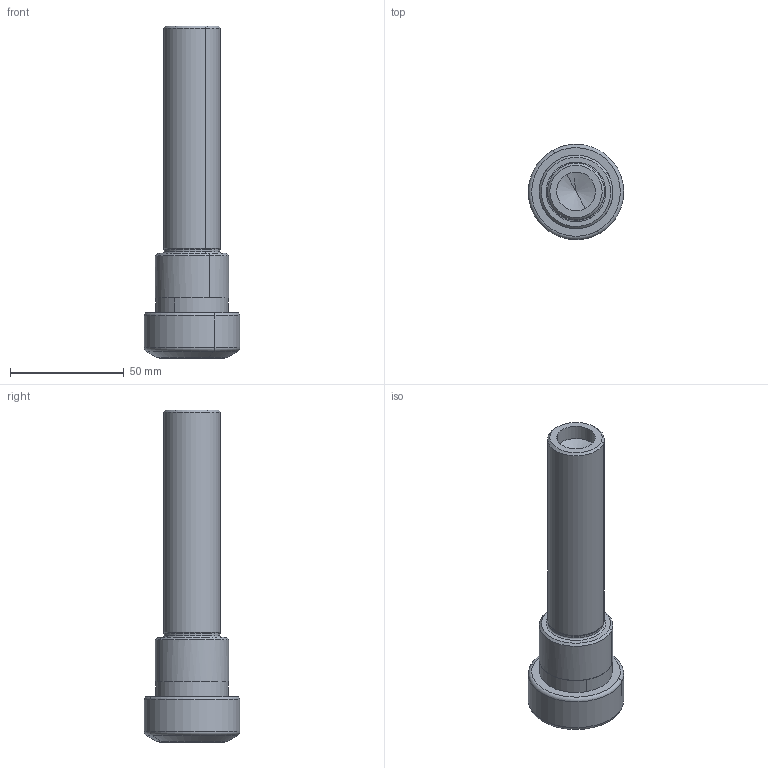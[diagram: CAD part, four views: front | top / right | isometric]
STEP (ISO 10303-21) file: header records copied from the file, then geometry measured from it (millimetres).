
FILE_DESCRIPTION(('CATIA V5 STEP','CAx-IF Rec.Pracs.--- Model Styling and Organization---1.2---2011-12-15'),'2;1');
FILE_NAME('\\nas01\drv1\utils\eitdev\rte\eit\transmagicconvert\db\out\635962253454379331\4508013-L-M.stp','2016-04-14T07:09:17+00:00',('none'),('none'),'CATIA Version 5 Release 21 SP 5 (IN-10)','CATIA V5 STEP AP214','none');
FILE_SCHEMA(('AUTOMOTIVE_DESIGN { 1 0 10303 214 1 1 1 1 }'));
Length unit declared in the file: millimetre
Products named in the file (1): ST 25X100 ER25
Bounding box: 41.99 x 41.99 x 146 mm (x, y, z)
Volume: 78974.7 mm3; surface area: 18530.4 mm2
Topology: 1 solids, 1 shells, 49 faces, 106 edges, 60 vertices
Faces by surface type: cylinder 18, cone 16, torus 10, plane 5
Entity records: 1224 total; most frequent: CARTESIAN_POINT 251, ORIENTED_EDGE 204, DIRECTION 160, EDGE_CURVE 102, AXIS2_PLACEMENT_3D 97, CIRCLE 66, VERTEX_POINT 60, EDGE_LOOP 54
